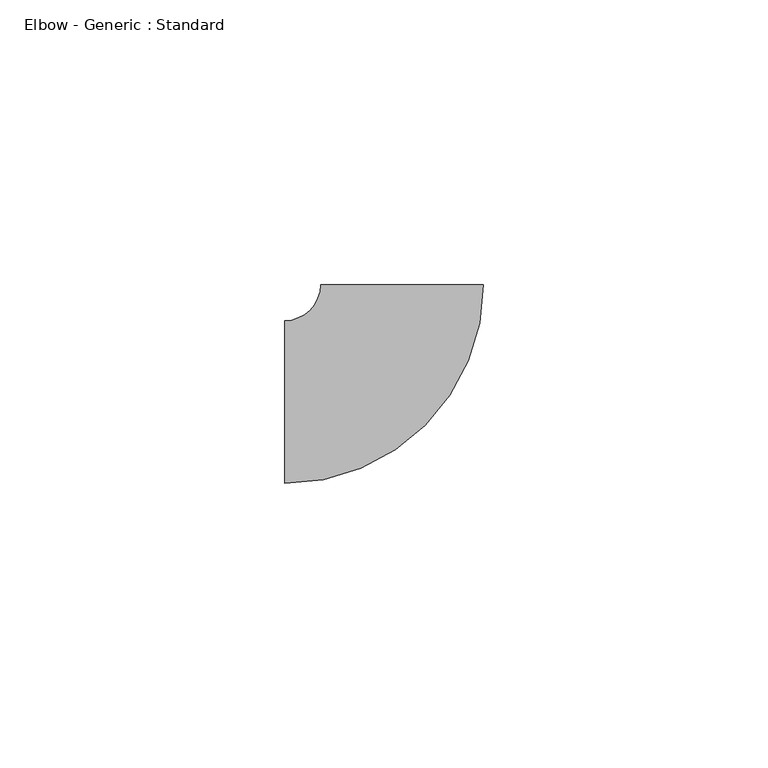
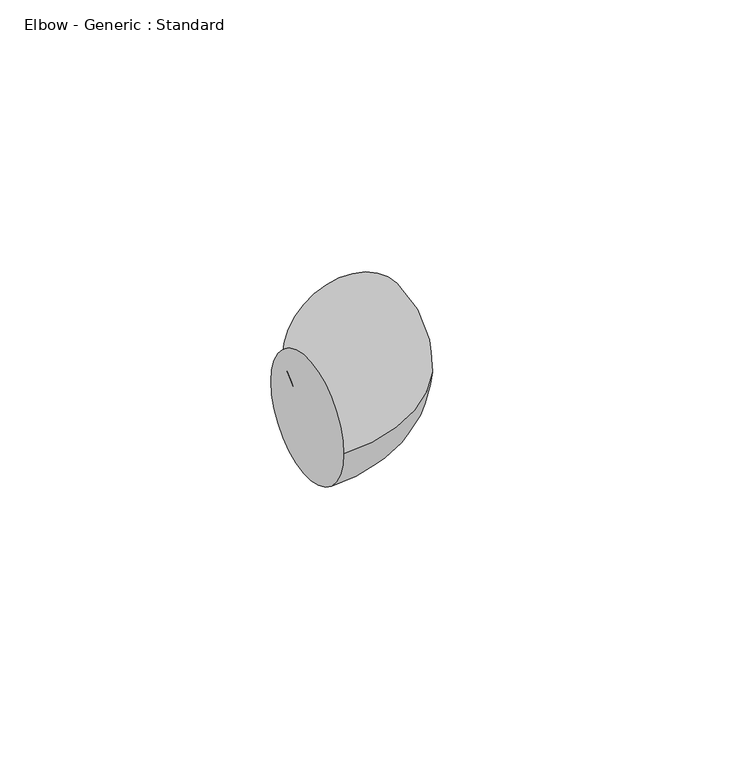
"""IFC4 building model written with IfcOpenShell, lengths in millimetres: pipe fitting geometry, Elbow - Generic : Standard."""

from ifc_helpers import new_model, si_unit, point, frame, origin, place, context, project, spatial, circle_curve, ellipse_curve, trimmed, source, transform, mapped, element, save
from ifc_brep_helpers import plane_surface, revolved_surface, advanced_brep


def elbow_generic_standard_c06ac706(model_context):
    return source(origin(), model_context, "Body", "AdvancedBrep", [
        advanced_brep(
        [(-20.6375, -14.2875, 0.0), (-20.6375, 14.2875, 0.0), (14.2875, 20.6375, 0.0), (-14.2875, 20.6375, 0.0)],
        [
            (0, 1, circle_curve(frame((-20.6375, 0.0, 0.0), z_axis=(-1.0, 0.0, 0.0), x_axis=(0.0, 1.0, 0.0)), 14.2875)),
            (1, 0, circle_curve(frame((-20.6375, 0.0, 0.0), z_axis=(-1.0, 0.0, 0.0), x_axis=(0.0, 1.0, 0.0)), 14.2875)),
            (2, 3, circle_curve(frame((0.0, 20.6375, 0.0), z_axis=(0.0, 1.0, 0.0), x_axis=(-1.0, 0.0, 0.0)), 14.2875)),
            (3, 2, circle_curve(frame((0.0, 20.6375, 0.0), z_axis=(0.0, 1.0, 0.0), x_axis=(-1.0, 0.0, 0.0)), 14.2875)),
            (3, 1, circle_curve(frame((-20.6375, 20.6375, 0.0), z_axis=(0.0, 0.0, -1.0), x_axis=(0.0, -1.0, 0.0)), 6.35)),
            (0, 2, circle_curve(frame((-20.6375, 20.6375, 0.0), z_axis=(0.0, 0.0, 1.0), x_axis=(0.0, -1.0, 0.0)), 34.925)),
        ],
        [
            plane_surface(frame((-20.6375, 0.0, 0.0), z_axis=(-1.0, 0.0, 0.0), x_axis=(0.0, 0.0, 1.0))),
            plane_surface(frame((0.0, 20.6375, 0.0), z_axis=(0.0, 1.0, 0.0), x_axis=(0.0, 0.0, 1.0))),
            revolved_surface(trimmed(ellipse_curve(frame((-20.6375, 0.0, 0.0), z_axis=(-1.0, 0.0, 0.0), x_axis=(0.0, 1.0, 0.0)), 14.2875, 14.2875), [point((-20.6375, -14.2875, 0.0))], [point((-20.6375, 14.2875, 0.0))], True, "CARTESIAN"), (-20.6375, 20.6375, 0.0), (0.0, 0.0, 1.0)),
            revolved_surface(trimmed(ellipse_curve(frame((-20.6375, 0.0, 0.0), z_axis=(-1.0, 0.0, 0.0), x_axis=(0.0, 1.0, 0.0)), 14.2875, 14.2875), [point((-20.6375, 14.2875, 0.0))], [point((-20.6375, -14.2875, 0.0))], True, "CARTESIAN"), (-20.6375, 20.6375, 0.0), (0.0, 0.0, 1.0)),
        ],
        [
            (0, [[1, 2]]),
            (1, [[3, 4]]),
            (2, [[5, -1, 6, -4]]),
            (3, [[-6, -2, -5, -3]]),
        ],
    ),
    ])


if __name__ == "__main__":
    model = new_model("IFC4")
    model_context = context("Model", 3, world=origin())
    ifc_project = project(units=[si_unit("LENGTHUNIT", "METRE", prefix="MILLI")], contexts=[model_context])
    site = spatial("IfcSite", under=ifc_project)
    building = spatial("IfcBuilding", under=site)
    placement = place(None, origin())
    elbow_generic_standard_shape = elbow_generic_standard_c06ac706(model_context)
    element("IfcPipeFitting", 1, ObjectType="Elbow - Generic : Standard", at=placement, inside=building, context=model_context, shape_type="MappedRepresentation", body=[
        mapped(elbow_generic_standard_shape, transform((0.0, 0.0, 0.0), x_axis=(1.0, 0.0, 0.0), y_axis=(0.0, 1.0, 0.0), z_axis=(0.0, 0.0, 1.0))),
    ])
    save(model, "model.ifc")
